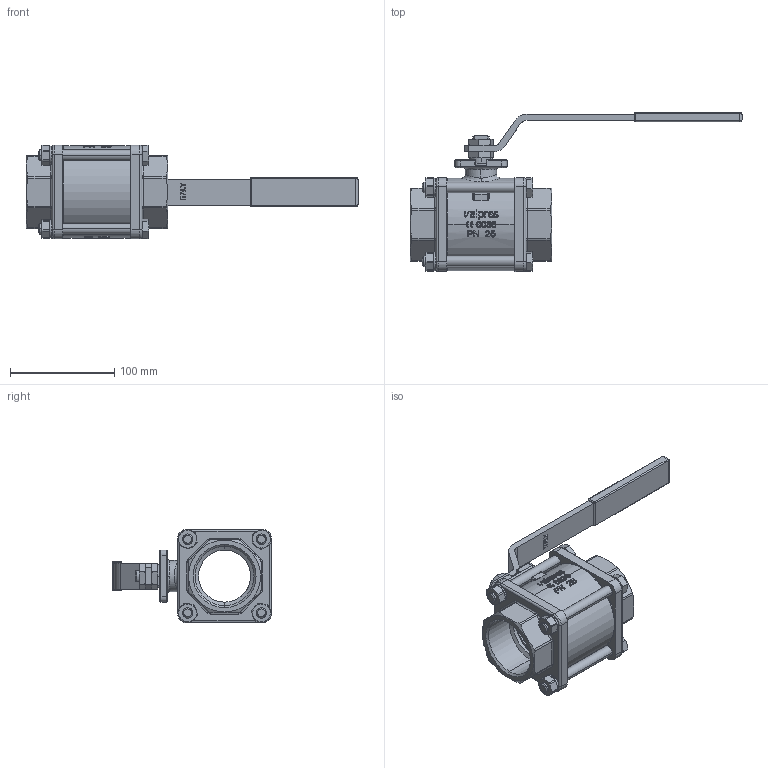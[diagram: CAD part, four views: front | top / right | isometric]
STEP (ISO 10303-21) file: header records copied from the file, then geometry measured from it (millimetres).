
FILE_DESCRIPTION (( 'STEP AP203' ), '1' );
FILE_NAME ('71000010.STEP', '2010-10-11T15:56:53', ( '.' ), ( '.' ), 'SwSTEP 2.0', 'SolidWorks 2008', '' );
FILE_SCHEMA (( 'CONFIG_CONTROL_DESIGN' ));
Products named in the file (1): 71000010
Bounding box: 318.6 x 152.5 x 90.13 mm (x, y, z)
Volume: 591332.6 mm3; surface area: 125497.8 mm2
Topology: 1 solids, 1 shells, 1274 faces, 3232 edges, 2015 vertices
Faces by surface type: bspline 383, plane 373, cylinder 322, cone 194, torus 2
Entity records: 99924 total; most frequent: CARTESIAN_POINT 72070, ORIENTED_EDGE 6432, DIRECTION 4827, EDGE_CURVE 3216, VERTEX_POINT 2015, AXIS2_PLACEMENT_3D 1779, EDGE_LOOP 1379, FACE_OUTER_BOUND 1274
